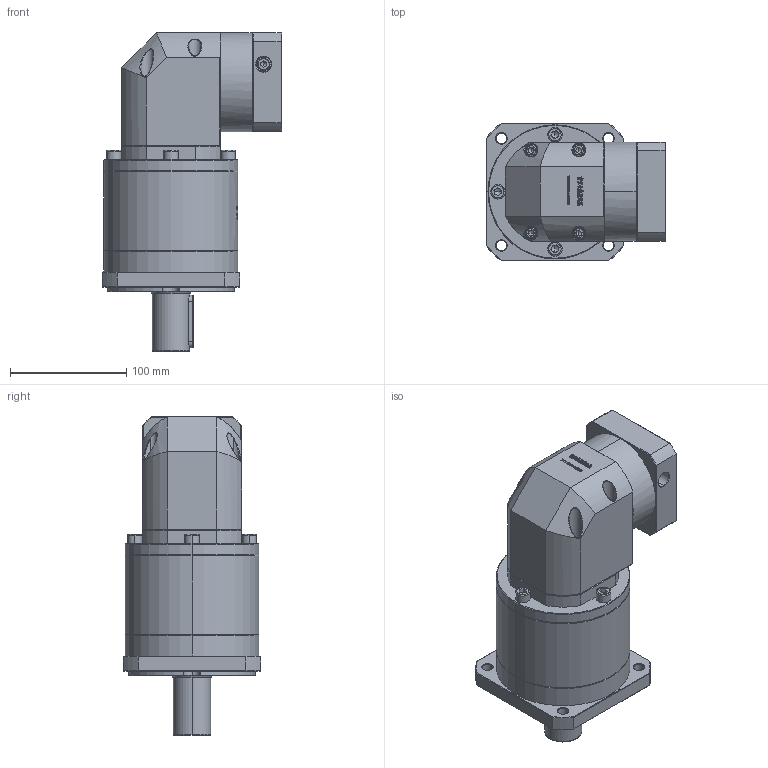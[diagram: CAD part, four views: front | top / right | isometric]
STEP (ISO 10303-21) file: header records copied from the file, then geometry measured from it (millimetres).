
FILE_DESCRIPTION (( 'STEP AP214' ), '1' );
FILE_NAME ('ZFR120A-D32-L3-14-73-69.5X69.5-M6.step', '2023-03-08T05:49:24', ( '' ), ( '' ), 'SwSTEP 2.0', 'SolidWorks 2016', '' );
FILE_SCHEMA (( 'AUTOMOTIVE_DESIGN' ));
Length unit declared in the file: millimetre
Products named in the file (1): ZFR120A-D32-L3-14-73-69.5X69.5-M6
Bounding box: 154.1 x 118 x 273.5 mm (x, y, z)
Volume: 2164147.1 mm3; surface area: 181895 mm2
Topology: 6 solids, 6 shells, 2998 faces, 7957 edges, 5105 vertices
Faces by surface type: plane 1578, bspline 625, cylinder 453, cone 328, torus 14
Entity records: 163698 total; most frequent: CARTESIAN_POINT 62286, ORIENTED_EDGE 15822, DIRECTION 11652, EDGE_CURVE 7911, VERTEX_POINT 5105, LINE 4928, VECTOR 4928, AXIS2_PLACEMENT_3D 3362
